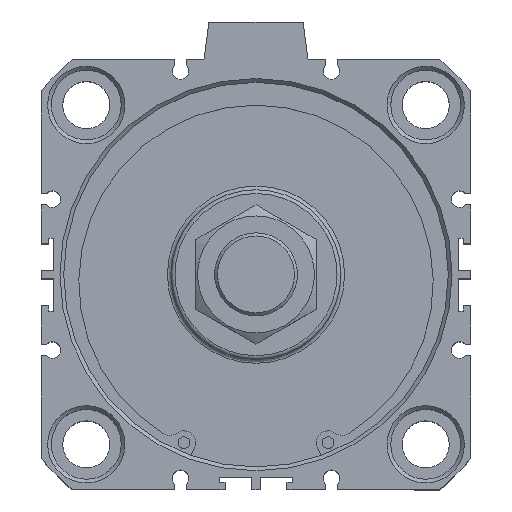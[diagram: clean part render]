
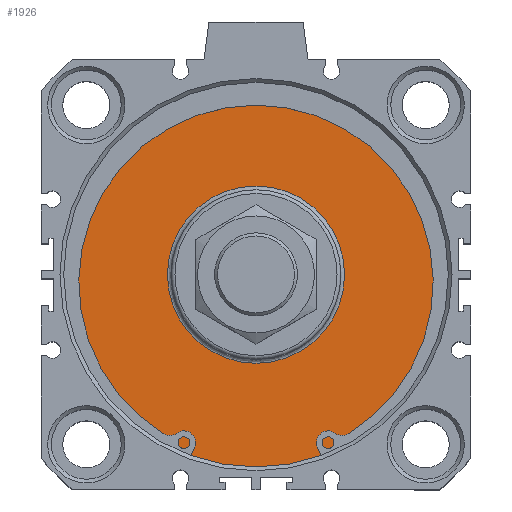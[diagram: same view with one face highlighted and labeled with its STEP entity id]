
A CAD part, top view. The second image highlights one B-rep face of the part: STEP entity #1926.
In plain terms, the highlighted planar face has unit normal (0, 0, 1).
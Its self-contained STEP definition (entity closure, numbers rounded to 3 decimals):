
#1875=CARTESIAN_POINT('',(-3.11,25.175,57.6));
#1876=VERTEX_POINT('',#1875);
#1877=CARTESIAN_POINT('',(-3.11,1.675,57.6));
#1878=DIRECTION('',(0.0,0.0,1.0));
#1879=DIRECTION('',(0.0,-1.0,0.0));
#1880=AXIS2_PLACEMENT_3D('',#1877,#1878,#1879);
#1881=CIRCLE('',#1880,23.5);
#1882=EDGE_CURVE('',#1876,#1876,#1881,.T.);
#1907=CARTESIAN_POINT('',(-3.11,38.425,57.6));
#1908=DIRECTION('',(0.0,0.0,1.0));
#1909=DIRECTION('',(1.0,0.0,0.0));
#1910=AXIS2_PLACEMENT_3D('',#1907,#1908,#1909);
#1911=PLANE('',#1910);
#1912=CARTESIAN_POINT('',(-3.11,52.675,57.6));
#1913=VERTEX_POINT('',#1912);
#1914=CARTESIAN_POINT('',(-3.11,1.675,57.6));
#1915=DIRECTION('',(0.0,0.0,-1.0));
#1916=DIRECTION('',(0.0,1.0,0.0));
#1917=AXIS2_PLACEMENT_3D('',#1914,#1915,#1916);
#1918=CIRCLE('',#1917,51.);
#1919=EDGE_CURVE('',#1913,#1913,#1918,.T.);
#1920=ORIENTED_EDGE('',*,*,#1919,.F.);
#1921=EDGE_LOOP('',(#1920));
#1922=FACE_OUTER_BOUND('',#1921,.T.);
#1923=ORIENTED_EDGE('',*,*,#1882,.F.);
#1924=EDGE_LOOP('',(#1923));
#1925=FACE_BOUND('',#1924,.T.);
#1926=ADVANCED_FACE('',(#1922,#1925),#1911,.T.);
